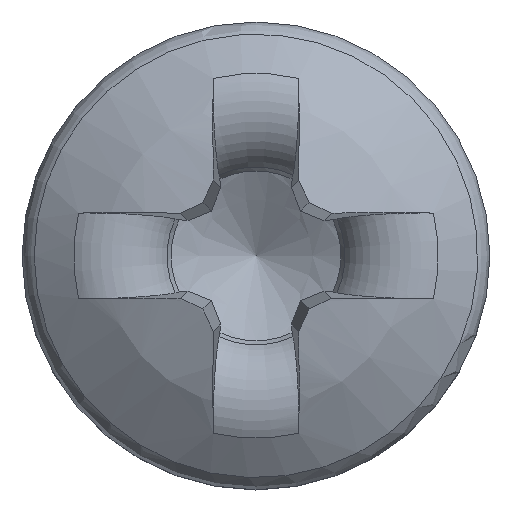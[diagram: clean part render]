
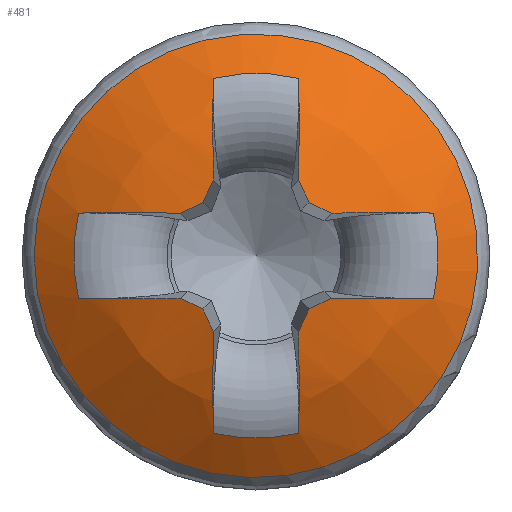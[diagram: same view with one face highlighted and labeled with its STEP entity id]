
A CAD part, top view. The second image highlights one B-rep face of the part: STEP entity #481.
In plain terms, the highlighted spherical face has radius 2.713 mm.
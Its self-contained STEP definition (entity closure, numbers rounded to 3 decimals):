
#345=SPHERICAL_SURFACE('',#2197,2.713);
#481=ADVANCED_FACE('',(#802,#803),#345,.T.);
#802=FACE_BOUND('',#822,.T.);
#803=FACE_BOUND('',#823,.T.);
#822=EDGE_LOOP('',(#1015));
#823=EDGE_LOOP('',(#1016,#1017,#1018,#1019,#1020,#1021,#1022,#1023,#1024,
#1025,#1026,#1027,#1028,#1029,#1030,#1031,#1032,#1033,#1034,#1035));
#1015=ORIENTED_EDGE('',*,*,#1863,.T.);
#1016=ORIENTED_EDGE('',*,*,#1864,.F.);
#1017=ORIENTED_EDGE('',*,*,#1865,.T.);
#1018=ORIENTED_EDGE('',*,*,#1866,.F.);
#1019=ORIENTED_EDGE('',*,*,#1867,.F.);
#1020=ORIENTED_EDGE('',*,*,#1868,.F.);
#1021=ORIENTED_EDGE('',*,*,#1869,.F.);
#1022=ORIENTED_EDGE('',*,*,#1870,.T.);
#1023=ORIENTED_EDGE('',*,*,#1871,.F.);
#1024=ORIENTED_EDGE('',*,*,#1872,.F.);
#1025=ORIENTED_EDGE('',*,*,#1873,.F.);
#1026=ORIENTED_EDGE('',*,*,#1874,.F.);
#1027=ORIENTED_EDGE('',*,*,#1875,.T.);
#1028=ORIENTED_EDGE('',*,*,#1876,.F.);
#1029=ORIENTED_EDGE('',*,*,#1877,.F.);
#1030=ORIENTED_EDGE('',*,*,#1878,.F.);
#1031=ORIENTED_EDGE('',*,*,#1879,.F.);
#1032=ORIENTED_EDGE('',*,*,#1880,.T.);
#1033=ORIENTED_EDGE('',*,*,#1881,.F.);
#1034=ORIENTED_EDGE('',*,*,#1882,.F.);
#1035=ORIENTED_EDGE('',*,*,#1883,.F.);
#1657=VERTEX_POINT('',#5100);
#1658=VERTEX_POINT('',#5102);
#1659=VERTEX_POINT('',#5103);
#1660=VERTEX_POINT('',#5105);
#1661=VERTEX_POINT('',#5107);
#1662=VERTEX_POINT('',#5109);
#1663=VERTEX_POINT('',#5111);
#1664=VERTEX_POINT('',#5113);
#1665=VERTEX_POINT('',#5115);
#1666=VERTEX_POINT('',#5117);
#1667=VERTEX_POINT('',#5119);
#1668=VERTEX_POINT('',#5121);
#1669=VERTEX_POINT('',#5123);
#1670=VERTEX_POINT('',#5125);
#1671=VERTEX_POINT('',#5127);
#1672=VERTEX_POINT('',#5129);
#1673=VERTEX_POINT('',#5131);
#1674=VERTEX_POINT('',#5133);
#1675=VERTEX_POINT('',#5135);
#1676=VERTEX_POINT('',#5137);
#1677=VERTEX_POINT('',#5139);
#1863=EDGE_CURVE('',#1657,#1657,#2133,.T.);
#1864=EDGE_CURVE('',#1658,#1659,#2134,.T.);
#1865=EDGE_CURVE('',#1658,#1660,#2135,.T.);
#1866=EDGE_CURVE('',#1661,#1660,#2136,.T.);
#1867=EDGE_CURVE('',#1662,#1661,#2137,.T.);
#1868=EDGE_CURVE('',#1663,#1662,#2138,.T.);
#1869=EDGE_CURVE('',#1664,#1663,#2139,.T.);
#1870=EDGE_CURVE('',#1664,#1665,#2140,.T.);
#1871=EDGE_CURVE('',#1666,#1665,#2141,.T.);
#1872=EDGE_CURVE('',#1667,#1666,#2142,.T.);
#1873=EDGE_CURVE('',#1668,#1667,#2143,.T.);
#1874=EDGE_CURVE('',#1669,#1668,#2144,.T.);
#1875=EDGE_CURVE('',#1669,#1670,#2145,.T.);
#1876=EDGE_CURVE('',#1671,#1670,#2146,.T.);
#1877=EDGE_CURVE('',#1672,#1671,#2147,.T.);
#1878=EDGE_CURVE('',#1673,#1672,#2148,.T.);
#1879=EDGE_CURVE('',#1674,#1673,#2149,.T.);
#1880=EDGE_CURVE('',#1674,#1675,#2150,.T.);
#1881=EDGE_CURVE('',#1676,#1675,#2151,.T.);
#1882=EDGE_CURVE('',#1677,#1676,#2152,.T.);
#1883=EDGE_CURVE('',#1659,#1677,#2153,.T.);
#2133=CIRCLE('',#2176,1.659);
#2134=CIRCLE('',#2177,2.712);
#2135=CIRCLE('',#2178,1.365);
#2136=CIRCLE('',#2179,2.712);
#2137=CIRCLE('',#2180,2.705);
#2138=CIRCLE('',#2181,2.705);
#2139=CIRCLE('',#2182,2.712);
#2140=CIRCLE('',#2183,1.365);
#2141=CIRCLE('',#2184,2.712);
#2142=CIRCLE('',#2185,2.705);
#2143=CIRCLE('',#2186,2.705);
#2144=CIRCLE('',#2187,2.712);
#2145=CIRCLE('',#2188,1.365);
#2146=CIRCLE('',#2189,2.712);
#2147=CIRCLE('',#2190,2.705);
#2148=CIRCLE('',#2191,2.705);
#2149=CIRCLE('',#2192,2.712);
#2150=CIRCLE('',#2193,1.365);
#2151=CIRCLE('',#2194,2.712);
#2152=CIRCLE('',#2195,2.705);
#2153=CIRCLE('',#2196,2.705);
#2176=AXIS2_PLACEMENT_3D('',#5099,#2262,#2263);
#2177=AXIS2_PLACEMENT_3D('',#5101,#2264,#2265);
#2178=AXIS2_PLACEMENT_3D('',#5104,#2266,#2267);
#2179=AXIS2_PLACEMENT_3D('',#5106,#2268,#2269);
#2180=AXIS2_PLACEMENT_3D('',#5108,#2270,#2271);
#2181=AXIS2_PLACEMENT_3D('',#5110,#2272,#2273);
#2182=AXIS2_PLACEMENT_3D('',#5112,#2274,#2275);
#2183=AXIS2_PLACEMENT_3D('',#5114,#2276,#2277);
#2184=AXIS2_PLACEMENT_3D('',#5116,#2278,#2279);
#2185=AXIS2_PLACEMENT_3D('',#5118,#2280,#2281);
#2186=AXIS2_PLACEMENT_3D('',#5120,#2282,#2283);
#2187=AXIS2_PLACEMENT_3D('',#5122,#2284,#2285);
#2188=AXIS2_PLACEMENT_3D('',#5124,#2286,#2287);
#2189=AXIS2_PLACEMENT_3D('',#5126,#2288,#2289);
#2190=AXIS2_PLACEMENT_3D('',#5128,#2290,#2291);
#2191=AXIS2_PLACEMENT_3D('',#5130,#2292,#2293);
#2192=AXIS2_PLACEMENT_3D('',#5132,#2294,#2295);
#2193=AXIS2_PLACEMENT_3D('',#5134,#2296,#2297);
#2194=AXIS2_PLACEMENT_3D('',#5136,#2298,#2299);
#2195=AXIS2_PLACEMENT_3D('',#5138,#2300,#2301);
#2196=AXIS2_PLACEMENT_3D('',#5140,#2302,#2303);
#2197=AXIS2_PLACEMENT_3D('',#5141,#2304,#2305);
#2262=DIRECTION('',(0.,0.,1.));
#2263=DIRECTION('',(-1.,0.,0.));
#2264=DIRECTION('',(-0.996,-0.035,0.087));
#2265=DIRECTION('',(0.087,0.,0.996));
#2266=DIRECTION('',(0.,0.,-1.));
#2267=DIRECTION('',(-1.,0.,0.));
#2268=DIRECTION('',(0.996,-0.035,0.087));
#2269=DIRECTION('',(0.087,0.,-0.996));
#2270=DIRECTION('',(0.907,0.404,0.122));
#2271=DIRECTION('',(-0.407,0.914,0.));
#2272=DIRECTION('',(0.404,0.907,0.122));
#2273=DIRECTION('',(-0.914,0.407,0.));
#2274=DIRECTION('',(-0.035,0.996,0.087));
#2275=DIRECTION('',(0.,-0.087,0.996));
#2276=DIRECTION('',(0.,0.,-1.));
#2277=DIRECTION('',(-1.,0.,0.));
#2278=DIRECTION('',(-0.035,-0.996,0.087));
#2279=DIRECTION('',(0.,-0.087,-0.996));
#2280=DIRECTION('',(0.404,-0.907,0.122));
#2281=DIRECTION('',(0.914,0.407,0.));
#2282=DIRECTION('',(0.907,-0.404,0.122));
#2283=DIRECTION('',(0.407,0.914,0.));
#2284=DIRECTION('',(0.996,0.035,0.087));
#2285=DIRECTION('',(0.087,0.,-0.996));
#2286=DIRECTION('',(0.,0.,-1.));
#2287=DIRECTION('',(-1.,0.,0.));
#2288=DIRECTION('',(-0.996,0.035,0.087));
#2289=DIRECTION('',(0.087,0.,0.996));
#2290=DIRECTION('',(-0.907,-0.404,0.122));
#2291=DIRECTION('',(0.407,-0.914,0.));
#2292=DIRECTION('',(-0.404,-0.907,0.122));
#2293=DIRECTION('',(0.914,-0.407,0.));
#2294=DIRECTION('',(0.035,-0.996,0.087));
#2295=DIRECTION('',(0.,-0.087,-0.996));
#2296=DIRECTION('',(0.,0.,-1.));
#2297=DIRECTION('',(-1.,0.,0.));
#2298=DIRECTION('',(0.035,0.996,0.087));
#2299=DIRECTION('',(0.,-0.087,0.996));
#2300=DIRECTION('',(-0.404,0.907,0.122));
#2301=DIRECTION('',(-0.914,-0.407,0.));
#2302=DIRECTION('',(-0.907,0.404,0.122));
#2303=DIRECTION('',(-0.407,-0.914,0.));
#2304=DIRECTION('',(0.,0.,1.));
#2305=DIRECTION('',(0.,1.,0.));
#5099=CARTESIAN_POINT('',(0.,0.,1.033));
#5100=CARTESIAN_POINT('',(-1.659,0.,1.033));
#5101=CARTESIAN_POINT('',(0.068,0.002,-1.119));
#5102=CARTESIAN_POINT('',(0.32,-1.327,1.231));
#5103=CARTESIAN_POINT('',(0.319,-0.566,1.521));
#5104=CARTESIAN_POINT('',(0.,0.,1.231));
#5105=CARTESIAN_POINT('',(-0.32,-1.327,1.231));
#5106=CARTESIAN_POINT('',(-0.068,0.002,-1.119));
#5107=CARTESIAN_POINT('',(-0.319,-0.566,1.521));
#5108=CARTESIAN_POINT('',(-0.178,-0.079,-1.137));
#5109=CARTESIAN_POINT('',(-0.397,-0.397,1.541));
#5110=CARTESIAN_POINT('',(-0.079,-0.178,-1.137));
#5111=CARTESIAN_POINT('',(-0.566,-0.319,1.521));
#5112=CARTESIAN_POINT('',(0.002,-0.068,-1.119));
#5113=CARTESIAN_POINT('',(-1.327,-0.32,1.231));
#5114=CARTESIAN_POINT('',(0.,0.,1.231));
#5115=CARTESIAN_POINT('',(-1.327,0.32,1.231));
#5116=CARTESIAN_POINT('',(0.002,0.068,-1.119));
#5117=CARTESIAN_POINT('',(-0.566,0.319,1.521));
#5118=CARTESIAN_POINT('',(-0.079,0.178,-1.137));
#5119=CARTESIAN_POINT('',(-0.397,0.397,1.541));
#5120=CARTESIAN_POINT('',(-0.178,0.079,-1.137));
#5121=CARTESIAN_POINT('',(-0.319,0.566,1.521));
#5122=CARTESIAN_POINT('',(-0.068,-0.002,-1.119));
#5123=CARTESIAN_POINT('',(-0.32,1.327,1.231));
#5124=CARTESIAN_POINT('',(0.,0.,1.231));
#5125=CARTESIAN_POINT('',(0.32,1.327,1.231));
#5126=CARTESIAN_POINT('',(0.068,-0.002,-1.119));
#5127=CARTESIAN_POINT('',(0.319,0.566,1.521));
#5128=CARTESIAN_POINT('',(0.178,0.079,-1.137));
#5129=CARTESIAN_POINT('',(0.397,0.397,1.541));
#5130=CARTESIAN_POINT('',(0.079,0.178,-1.137));
#5131=CARTESIAN_POINT('',(0.566,0.319,1.521));
#5132=CARTESIAN_POINT('',(-0.002,0.068,-1.119));
#5133=CARTESIAN_POINT('',(1.327,0.32,1.231));
#5134=CARTESIAN_POINT('',(0.,0.,1.231));
#5135=CARTESIAN_POINT('',(1.327,-0.32,1.231));
#5136=CARTESIAN_POINT('',(-0.002,-0.068,-1.119));
#5137=CARTESIAN_POINT('',(0.566,-0.319,1.521));
#5138=CARTESIAN_POINT('',(0.079,-0.178,-1.137));
#5139=CARTESIAN_POINT('',(0.397,-0.397,1.541));
#5140=CARTESIAN_POINT('',(0.178,-0.079,-1.137));
#5141=CARTESIAN_POINT('',(0.,0.,-1.113));
